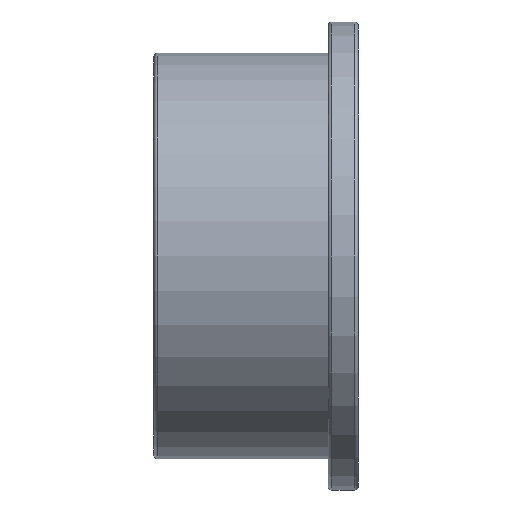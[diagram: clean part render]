
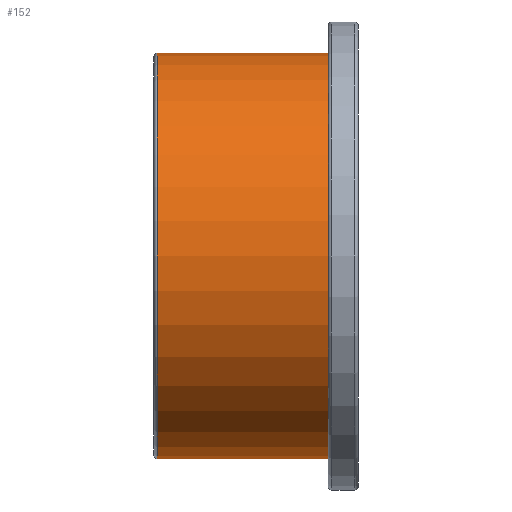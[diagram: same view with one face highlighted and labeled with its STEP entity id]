
A CAD part, front view. The second image highlights one B-rep face of the part: STEP entity #152.
In plain terms, the highlighted cylindrical face has radius 81.5 mm (diameter 163 mm), a full revolution.
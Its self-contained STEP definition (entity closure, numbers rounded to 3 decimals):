
#21=CYLINDRICAL_SURFACE('',#176,81.5);
#30=FACE_BOUND('',#64,.T.);
#43=FACE_OUTER_BOUND('',#63,.T.);
#63=EDGE_LOOP('',(#128));
#64=EDGE_LOOP('',(#129));
#78=CIRCLE('',#166,81.5);
#83=CIRCLE('',#175,81.5);
#91=VERTEX_POINT('',#250);
#96=VERTEX_POINT('',#264);
#104=EDGE_CURVE('',#91,#91,#78,.T.);
#109=EDGE_CURVE('',#96,#96,#83,.T.);
#128=ORIENTED_EDGE('',*,*,#104,.T.);
#129=ORIENTED_EDGE('',*,*,#109,.F.);
#152=ADVANCED_FACE('',(#43,#30),#21,.T.);
#166=AXIS2_PLACEMENT_3D('',#251,#200,#201);
#175=AXIS2_PLACEMENT_3D('',#265,#218,#219);
#176=AXIS2_PLACEMENT_3D('',#266,#220,#221);
#200=DIRECTION('center_axis',(-1.,0.,0.));
#201=DIRECTION('ref_axis',(0.,0.,1.));
#218=DIRECTION('center_axis',(-1.,0.,0.));
#219=DIRECTION('ref_axis',(0.,1.,0.));
#220=DIRECTION('center_axis',(-1.,0.,0.));
#221=DIRECTION('ref_axis',(0.,-1.,0.));
#250=CARTESIAN_POINT('',(70.,-81.5,0.));
#251=CARTESIAN_POINT('Origin',(70.,0.,0.));
#264=CARTESIAN_POINT('',(1.4,-81.5,0.));
#265=CARTESIAN_POINT('Origin',(1.4,0.,0.));
#266=CARTESIAN_POINT('Origin',(35.,0.,0.));
